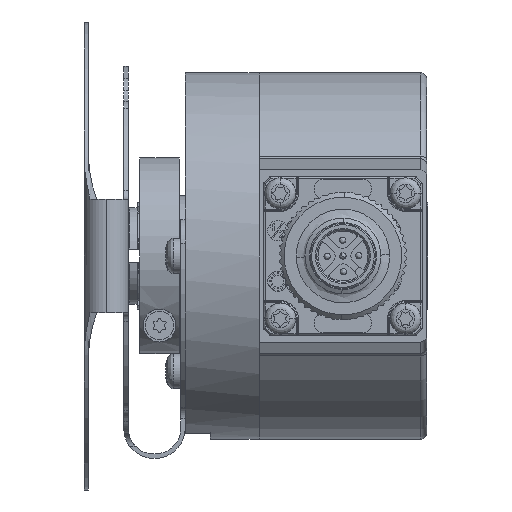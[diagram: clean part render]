
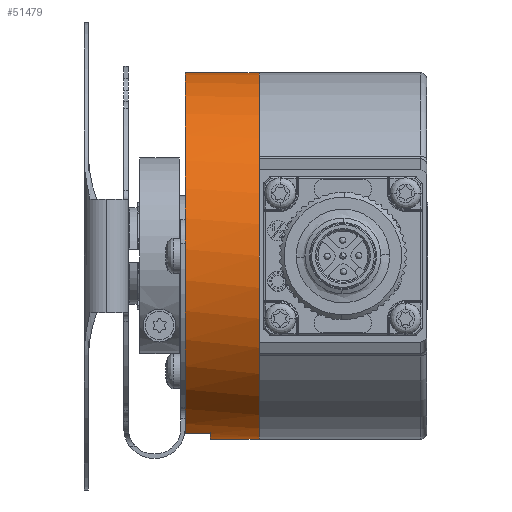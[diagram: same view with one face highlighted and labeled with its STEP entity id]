
A CAD part, front view. The second image highlights one B-rep face of the part: STEP entity #51479.
In plain terms, the highlighted cylindrical face has radius 29 mm (diameter 58 mm), a partial arc.
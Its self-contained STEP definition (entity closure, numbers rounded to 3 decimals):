
#2077 = AXIS2_PLACEMENT_3D ( 'NONE', #34027, #20195, #12532 ) ;
#2725 = DIRECTION ( 'NONE',  ( 1., 0., 0. ) ) ;
#3105 = VERTEX_POINT ( 'NONE', #6167 ) ;
#3191 = CARTESIAN_POINT ( 'NONE',  ( 8.068, 25.423, 29. ) ) ;
#6167 = CARTESIAN_POINT ( 'NONE',  ( 0.378, 18.423, -28.142 ) ) ;
#6510 = VERTEX_POINT ( 'NONE', #3191 ) ;
#7743 = DIRECTION ( 'NONE',  ( 1., 0., 0. ) ) ;
#7840 = DIRECTION ( 'NONE',  ( 0., 0., -1. ) ) ;
#8691 = VERTEX_POINT ( 'NONE', #23514 ) ;
#8812 = VERTEX_POINT ( 'NONE', #43530 ) ;
#8989 = ORIENTED_EDGE ( 'NONE', *, *, #19282, .T. ) ;
#10667 = CARTESIAN_POINT ( 'NONE',  ( 0.378, 25.423, -29. ) ) ;
#10738 = AXIS2_PLACEMENT_3D ( 'NONE', #17649, #7743, #51902 ) ;
#11582 = ORIENTED_EDGE ( 'NONE', *, *, #54705, .F. ) ;
#11626 = ORIENTED_EDGE ( 'NONE', *, *, #23353, .T. ) ;
#11884 = AXIS2_PLACEMENT_3D ( 'NONE', #51713, #16619, #7840 ) ;
#12532 = DIRECTION ( 'NONE',  ( 0., 0., -1. ) ) ;
#13460 = CIRCLE ( 'NONE', #10738, 29. ) ;
#14340 = DIRECTION ( 'NONE',  ( 1., 0., 0. ) ) ;
#14969 = LINE ( 'NONE', #32216, #22238 ) ;
#15505 = DIRECTION ( 'NONE',  ( 1., 0., 0. ) ) ;
#16619 = DIRECTION ( 'NONE',  ( 1., 0., 0. ) ) ;
#16780 = FACE_OUTER_BOUND ( 'NONE', #37903, .T. ) ;
#17649 = CARTESIAN_POINT ( 'NONE',  ( 0.378, 25.423, 0. ) ) ;
#19282 = EDGE_CURVE ( 'NONE', #29291, #22704, #14969, .T. ) ;
#20195 = DIRECTION ( 'NONE',  ( 1., 0., 0. ) ) ;
#20474 = CYLINDRICAL_SURFACE ( 'NONE', #2077, 29. ) ;
#20596 = EDGE_CURVE ( 'NONE', #8691, #6510, #36983, .T. ) ;
#22238 = VECTOR ( 'NONE', #15505, 1000. ) ;
#22407 = VECTOR ( 'NONE', #2725, 1000. ) ;
#22574 = ORIENTED_EDGE ( 'NONE', *, *, #38314, .F. ) ;
#22704 = VERTEX_POINT ( 'NONE', #24669 ) ;
#23353 = EDGE_CURVE ( 'NONE', #3105, #29291, #13460, .T. ) ;
#23514 = CARTESIAN_POINT ( 'NONE',  ( -3.622, 25.423, 29. ) ) ;
#24669 = CARTESIAN_POINT ( 'NONE',  ( 8.068, 25.423, -29. ) ) ;
#27910 = CARTESIAN_POINT ( 'NONE',  ( 8.068, 25.423, 29. ) ) ;
#29133 = CIRCLE ( 'NONE', #55363, 29. ) ;
#29291 = VERTEX_POINT ( 'NONE', #10667 ) ;
#31567 = DIRECTION ( 'NONE',  ( 0., 0., -1. ) ) ;
#32216 = CARTESIAN_POINT ( 'NONE',  ( 8.068, 25.423, -29. ) ) ;
#34027 = CARTESIAN_POINT ( 'NONE',  ( 8.068, 25.423, 0. ) ) ;
#34213 = DIRECTION ( 'NONE',  ( -1., 0., 0. ) ) ;
#36233 = ORIENTED_EDGE ( 'NONE', *, *, #48872, .T. ) ;
#36330 = CIRCLE ( 'NONE', #11884, 29. ) ;
#36983 = LINE ( 'NONE', #27910, #22407 ) ;
#37903 = EDGE_LOOP ( 'NONE', ( #42967, #36233, #11582, #11626, #8989, #22574 ) ) ;
#37908 = LINE ( 'NONE', #55449, #50313 ) ;
#38314 = EDGE_CURVE ( 'NONE', #6510, #22704, #29133, .T. ) ;
#42967 = ORIENTED_EDGE ( 'NONE', *, *, #20596, .F. ) ;
#43530 = CARTESIAN_POINT ( 'NONE',  ( -3.622, 18.423, -28.142 ) ) ;
#48872 = EDGE_CURVE ( 'NONE', #8691, #8812, #36330, .T. ) ;
#50313 = VECTOR ( 'NONE', #34213, 1000. ) ;
#51479 = ADVANCED_FACE ( 'NONE', ( #16780 ), #20474, .T. ) ;
#51713 = CARTESIAN_POINT ( 'NONE',  ( -3.622, 25.423, 0. ) ) ;
#51902 = DIRECTION ( 'NONE',  ( 0., 0., 1. ) ) ;
#53111 = CARTESIAN_POINT ( 'NONE',  ( 8.068, 25.423, 0. ) ) ;
#54705 = EDGE_CURVE ( 'NONE', #3105, #8812, #37908, .T. ) ;
#55363 = AXIS2_PLACEMENT_3D ( 'NONE', #53111, #14340, #31567 ) ;
#55449 = CARTESIAN_POINT ( 'NONE',  ( 8.068, 18.423, -28.142 ) ) ;
